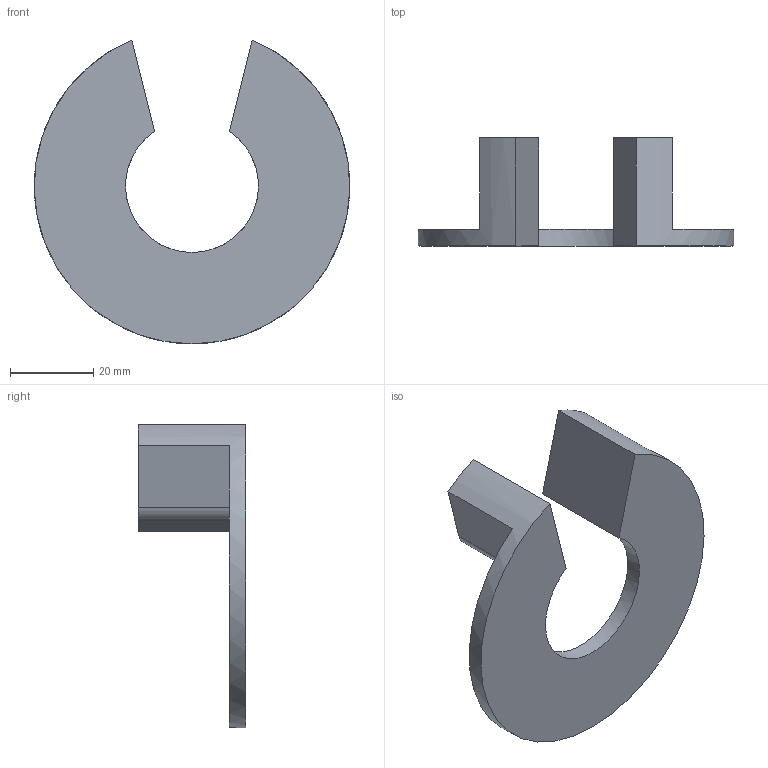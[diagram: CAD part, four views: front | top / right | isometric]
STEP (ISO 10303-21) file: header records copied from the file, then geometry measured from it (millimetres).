
FILE_DESCRIPTION( ( 'STEP AP214' ), '1' );
FILE_NAME( 'C:/Users/swati/Desktop/3D_check/QC2/New folder/9097899/9097899.stp', ' ', ( ' ' ), ( ' ' ), 'PSStep 15.0.47', 'PARTsolutions', ' ' );
FILE_SCHEMA( ( 'AUTOMOTIVE_DESIGN { 1 0 10303 214 1 1 1 1 }' ) );
Length unit declared in the file: millimetre
Products named in the file (2): 95 ; _
Assembly tree (1 placements, depth 2):
  95 
    _
Bounding box: 75.98 x 26 x 73.13 mm (x, y, z)
Volume: 22016.9 mm3; surface area: 10752 mm2
Topology: 1 solids, 1 shells, 18 faces, 42 edges, 28 vertices
Faces by surface type: plane 12, cylinder 6
Full cylindrical faces by diameter (mm): 4 x2
Entity records: 694 total; most frequent: DIRECTION 96, CARTESIAN_POINT 88, ORIENTED_EDGE 80, EDGE_CURVE 40, AXIS2_PLACEMENT_3D 36, VERTEX_POINT 28, LINE 24, VECTOR 24
